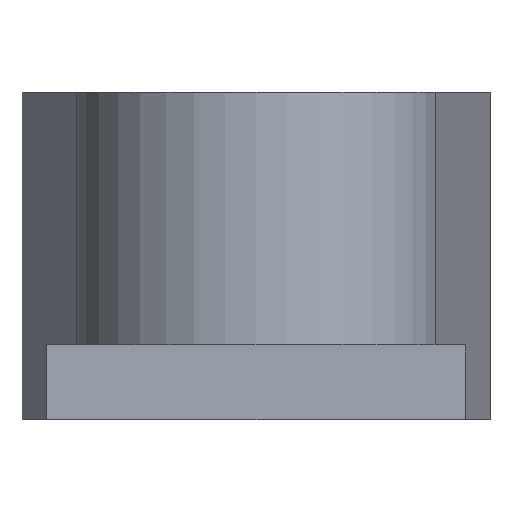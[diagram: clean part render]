
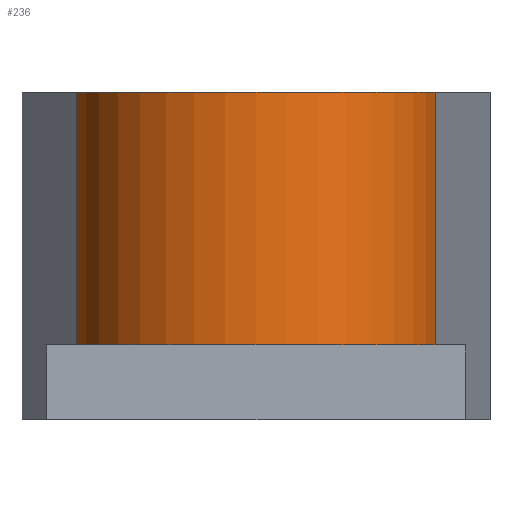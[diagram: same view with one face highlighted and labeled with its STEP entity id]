
A CAD part, left-side view. The second image highlights one B-rep face of the part: STEP entity #236.
In plain terms, the highlighted cylindrical face has radius 19.5 mm (diameter 39 mm), a partial arc.
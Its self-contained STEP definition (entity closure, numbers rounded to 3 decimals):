
#145=CYLINDRICAL_SURFACE('',#914,19.5);
#168=CIRCLE('',#866,19.5);
#195=CIRCLE('',#913,19.5);
#236=ADVANCED_FACE('',(#285),#145,.T.);
#285=FACE_OUTER_BOUND('',#342,.T.);
#342=EDGE_LOOP('',(#520,#521,#522,#523));
#520=ORIENTED_EDGE('',*,*,#717,.F.);
#521=ORIENTED_EDGE('',*,*,#716,.T.);
#522=ORIENTED_EDGE('',*,*,#667,.F.);
#523=ORIENTED_EDGE('',*,*,#709,.F.);
#585=VERTEX_POINT('',#1253);
#586=VERTEX_POINT('',#1255);
#615=VERTEX_POINT('',#1342);
#619=VERTEX_POINT('',#1354);
#667=EDGE_CURVE('',#585,#586,#168,.T.);
#709=EDGE_CURVE('',#615,#585,#766,.T.);
#716=EDGE_CURVE('',#619,#586,#773,.T.);
#717=EDGE_CURVE('',#619,#615,#195,.T.);
#766=LINE('',#1343,#816);
#773=LINE('',#1356,#823);
#816=VECTOR('',#1122,1.);
#823=VECTOR('',#1133,1.);
#866=AXIS2_PLACEMENT_3D('',#1254,#1019,#1020);
#913=AXIS2_PLACEMENT_3D('',#1358,#1136,#1137);
#914=AXIS2_PLACEMENT_3D('',#1359,#1138,#1139);
#1019=DIRECTION('',(0.,0.,1.));
#1020=DIRECTION('',(1.,0.,0.));
#1122=DIRECTION('',(0.,0.,1.));
#1133=DIRECTION('',(0.,0.,1.));
#1136=DIRECTION('',(0.,0.,-1.));
#1137=DIRECTION('',(1.,0.,0.));
#1138=DIRECTION('',(0.,0.,1.));
#1139=DIRECTION('',(-1.,0.,0.));
#1253=CARTESIAN_POINT('',(-3.771,19.132,35.));
#1254=CARTESIAN_POINT('',(0.,0.,35.));
#1255=CARTESIAN_POINT('',(-3.771,-19.132,35.));
#1342=CARTESIAN_POINT('',(-3.771,19.132,8.));
#1343=CARTESIAN_POINT('',(-3.771,19.132,0.));
#1354=CARTESIAN_POINT('',(-3.771,-19.132,8.));
#1356=CARTESIAN_POINT('',(-3.771,-19.132,0.));
#1358=CARTESIAN_POINT('',(0.,0.,8.));
#1359=CARTESIAN_POINT('',(0.,0.,0.));
